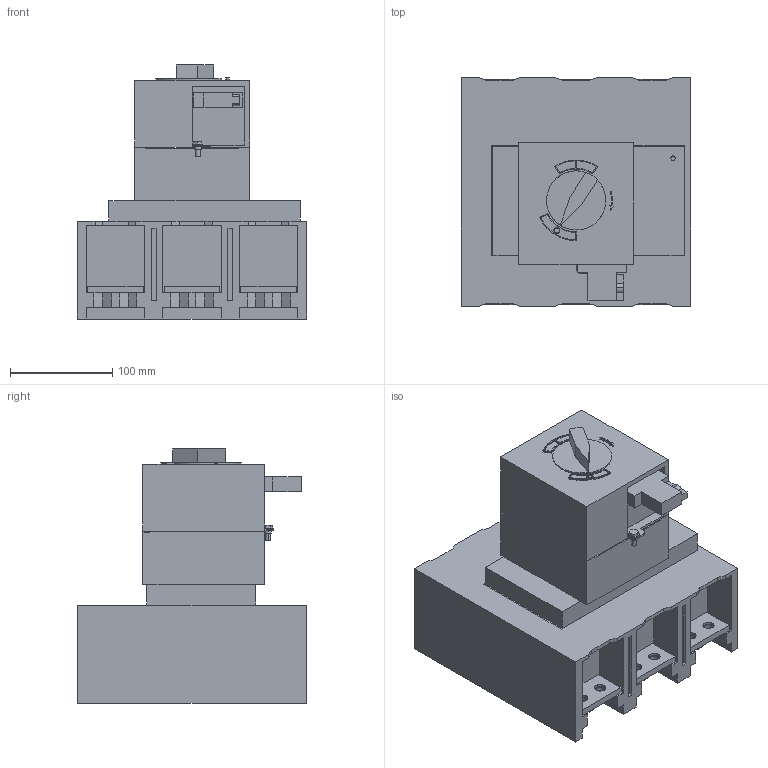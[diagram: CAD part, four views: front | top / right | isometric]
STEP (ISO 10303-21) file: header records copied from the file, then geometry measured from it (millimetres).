
FILE_DESCRIPTION (( 'STEP AP214' ), '1' );
FILE_NAME ('30 (2.44).STEP', '2023-08-08T08:30:56', ( '' ), ( '' ), 'SwSTEP 2.0', 'SolidWorks 2018', '' );
FILE_SCHEMA (( 'AUTOMOTIVE_DESIGN' ));
Length unit declared in the file: millimetre
Products named in the file (4): 署赅 闷仁.301122.005_娻腓獱 儐垔.301122.005; ÂÀ57-39_¢ë¢®¤ 2.44 ¬¬; Ýëåêòðîìàãíèòíûé ïðèâîä ñîëèä; 30 (2.44)
Assembly tree (3 placements, depth 2):
  30 (2.44)
    ÂÀ57-39_¢ë¢®¤ 2.44 ¬¬
    署赅 闷仁.301122.005_娻腓獱 儐垔.301122.005
    Ýëåêòðîìàãíèòíûé ïðèâîä ñîëèä
Bounding box: 225 x 224 x 249.05 mm (x, y, z)
Volume: 5294031.7 mm3; surface area: 441481.4 mm2
Topology: 4 solids, 14 shells, 538 faces, 1374 edges, 909 vertices
Faces by surface type: plane 418, cylinder 120
Entity records: 17164 total; most frequent: CARTESIAN_POINT 2827, ORIENTED_EDGE 2748, DIRECTION 2705, EDGE_CURVE 1374, LINE 1131, VECTOR 1131, VERTEX_POINT 909, AXIS2_PLACEMENT_3D 787
